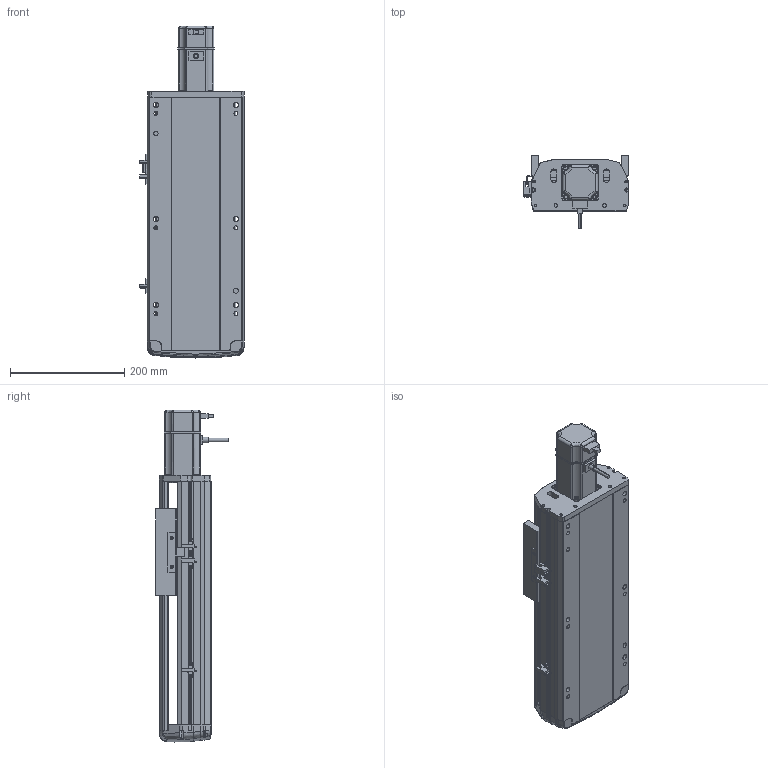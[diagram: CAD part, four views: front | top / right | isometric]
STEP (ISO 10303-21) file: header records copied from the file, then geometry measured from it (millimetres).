
FILE_DESCRIPTION (( 'STEP AP214' ), '1' );
FILE_NAME ('RTH17-XX-200-E-M40-C4（方程式）.STEP', '2025-10-24T05:37:53', ( '' ), ( '' ), 'SwSTEP 2.0', 'SolidWorks 2018', '' );
FILE_SCHEMA (( 'AUTOMOTIVE_DESIGN' ));
Length unit declared in the file: millimetre
Products named in the file (9): N_RTH17-E-011底座^RTH17-XX-XX-E-M40-C4（方程式）; RTH17-XX-200-E-M40-C4（方程式）; N_RTH17-E-008-P40电机板^RTH17-XX-XX-E-M40-C4（方程式）; N_RTH17-E-004丝杆螺母连接座^RTH17-XX-XX-E-M40-C4（方程式）; N_M40^RTH17-XX-XX-E-M40-C4（方程式）; N_RTH-BL-012 感应片(外置)^RTH17-XX-XX-E-M40-C4（方程式）; N_OMRON EE-SX672 換覜ん^RTH17-XX-XX-E-M40-C4ㄗ源最宒ㄘ; N_RTH17-E-007上盖^RTH17-XX-XX-E-M40-C4（方程式）; N_RTH17-GY-001P^RTH17-XX-XX-E-M40-C4（方程式）
Assembly tree (10 placements, depth 2):
  RTH17-XX-200-E-M40-C4（方程式）
    N_RTH17-E-011底座^RTH17-XX-XX-E-M40-C4（方程式）
    N_RTH17-E-007上盖^RTH17-XX-XX-E-M40-C4（方程式）
    N_RTH17-E-008-P40电机板^RTH17-XX-XX-E-M40-C4（方程式）
    N_OMRON EE-SX672 換覜ん^RTH17-XX-XX-E-M40-C4ㄗ源最宒ㄘ  x3
    N_RTH-BL-012 感应片(外置)^RTH17-XX-XX-E-M40-C4（方程式）
    N_RTH17-E-004丝杆螺母连接座^RTH17-XX-XX-E-M40-C4（方程式）
    N_RTH17-GY-001P^RTH17-XX-XX-E-M40-C4（方程式）
    N_M40^RTH17-XX-XX-E-M40-C4（方程式）
Bounding box: 183.5 x 127 x 580.77 mm (x, y, z)
Volume: 4302495.2 mm3; surface area: 617725.4 mm2
Topology: 9 solids, 11 shells, 1633 faces, 4549 edges, 2966 vertices
Faces by surface type: plane 823, cylinder 443, bspline 330, cone 28, torus 9
Entity records: 47261 total; most frequent: CARTESIAN_POINT 19016, ORIENTED_EDGE 6122, DIRECTION 5085, EDGE_CURVE 3065, VERTEX_POINT 2002, LINE 1741, VECTOR 1741, AXIS2_PLACEMENT_3D 1672
